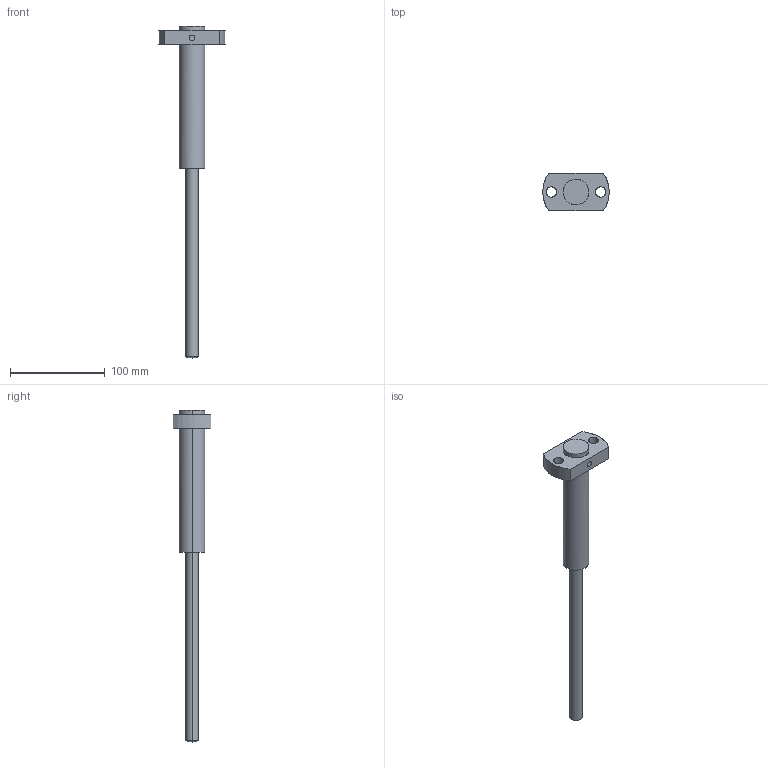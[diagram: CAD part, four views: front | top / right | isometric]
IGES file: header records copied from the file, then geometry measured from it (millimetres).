
Global section: file name: E:\UnigraphicsGraphicData\MISUMI_PRESS-PARTS\IGES\3d_papz13-200-150-130-250_01702_r00.igs; native system: NX V5.0; preprocessor: UGS NX IGES V5.0; author: MISUMI; date: 20110105.162226; units: millimetre
Bounding box: 70 x 40 x 350 mm (x, y, z)
Surface area: 31497.4 mm2 (no closed solid volume)
Topology: 0 solids, 0 shells, 23 faces, 212 edges, 210 vertices
Faces by surface type: bspline 23
